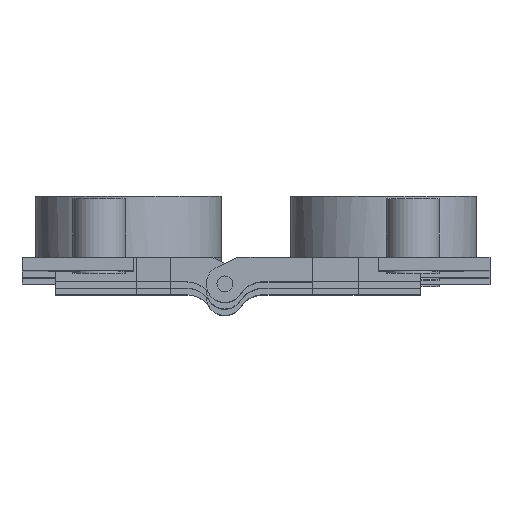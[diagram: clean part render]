
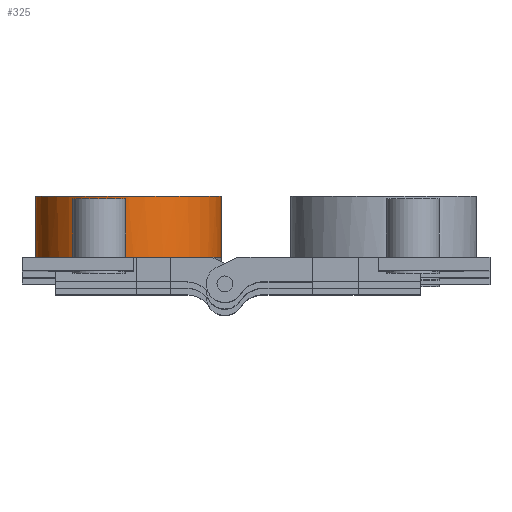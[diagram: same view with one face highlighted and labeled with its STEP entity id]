
A CAD part, top view. The second image highlights one B-rep face of the part: STEP entity #325.
In plain terms, the highlighted cylindrical face has radius 17.5 mm (diameter 35 mm), a full revolution.
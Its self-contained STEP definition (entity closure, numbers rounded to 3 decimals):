
#325 = ADVANCED_FACE( '', ( #657, #658 ), #659, .T. );
#657 = FACE_OUTER_BOUND( '', #974, .T. );
#658 = FACE_OUTER_BOUND( '', #975, .T. );
#659 = CYLINDRICAL_SURFACE( '', #976, 17.5 );
#974 = EDGE_LOOP( '', ( #1725, #1726, #1727, #1728, #1729, #1730, #1731, #1732, #1733, #1734 ) );
#975 = EDGE_LOOP( '', ( #1735 ) );
#976 = AXIS2_PLACEMENT_3D( '', #1736, #1737, #1738 );
#1725 = ORIENTED_EDGE( '', *, *, #1865, .F. );
#1726 = ORIENTED_EDGE( '', *, *, #1995, .F. );
#1727 = ORIENTED_EDGE( '', *, *, #1848, .F. );
#1728 = ORIENTED_EDGE( '', *, *, #1806, .F. );
#1729 = ORIENTED_EDGE( '', *, *, #1845, .F. );
#1730 = ORIENTED_EDGE( '', *, *, #1815, .F. );
#1731 = ORIENTED_EDGE( '', *, *, #1843, .F. );
#1732 = ORIENTED_EDGE( '', *, *, #1812, .F. );
#1733 = ORIENTED_EDGE( '', *, *, #1841, .F. );
#1734 = ORIENTED_EDGE( '', *, *, #1780, .F. );
#1735 = ORIENTED_EDGE( '', *, *, #2040, .T. );
#1736 = CARTESIAN_POINT( '', ( -24., -50., 0. ) );
#1737 = DIRECTION( '', ( 0., 1., 0. ) );
#1738 = DIRECTION( '', ( 0., 0., -1. ) );
#1780 = EDGE_CURVE( '', #2084, #2085, #2086, .T. );
#1806 = EDGE_CURVE( '', #2130, #2131, #2132, .T. );
#1812 = EDGE_CURVE( '', #2141, #2143, #2144, .T. );
#1815 = EDGE_CURVE( '', #2147, #2149, #2150, .T. );
#1841 = EDGE_CURVE( '', #2085, #2141, #2191, .T. );
#1843 = EDGE_CURVE( '', #2143, #2147, #2193, .T. );
#1845 = EDGE_CURVE( '', #2149, #2130, #2195, .T. );
#1848 = EDGE_CURVE( '', #2131, #2114, #2199, .T. );
#1865 = EDGE_CURVE( '', #2226, #2084, #2227, .T. );
#1995 = EDGE_CURVE( '', #2114, #2226, #2421, .T. );
#2040 = EDGE_CURVE( '', #2479, #2479, #2480, .T. );
#2084 = VERTEX_POINT( '', #2529 );
#2085 = VERTEX_POINT( '', #2530 );
#2086 = CIRCLE( '', #2531, 17.5 );
#2114 = VERTEX_POINT( '', #2564 );
#2130 = VERTEX_POINT( '', #2584 );
#2131 = VERTEX_POINT( '', #2585 );
#2132 = CIRCLE( '', #2586, 17.5 );
#2141 = VERTEX_POINT( '', #2599 );
#2143 = VERTEX_POINT( '', #2602 );
#2144 = CIRCLE( '', #2603, 17.5 );
#2147 = VERTEX_POINT( '', #2607 );
#2149 = VERTEX_POINT( '', #2610 );
#2150 = CIRCLE( '', #2611, 17.5 );
#2191 = CIRCLE( '', #2660, 17.5 );
#2193 = CIRCLE( '', #2663, 17.5 );
#2195 = CIRCLE( '', #2666, 17.5 );
#2199 = CIRCLE( '', #2672, 17.5 );
#2226 = VERTEX_POINT( '', #2709 );
#2227 = CIRCLE( '', #2710, 17.5 );
#2421 = CIRCLE( '', #2978, 17.5 );
#2479 = VERTEX_POINT( '', #3050 );
#2480 = CIRCLE( '', #3051, 17.5 );
#2529 = CARTESIAN_POINT( '', ( -8.29, 0., 7.71 ) );
#2530 = CARTESIAN_POINT( '', ( -8.962, 0., 8.95 ) );
#2531 = AXIS2_PLACEMENT_3D( '', #3095, #3096, #3097 );
#2564 = CARTESIAN_POINT( '', ( -8.962, 0., -8.95 ) );
#2584 = CARTESIAN_POINT( '', ( -38.697, 0., -9.5 ) );
#2585 = CARTESIAN_POINT( '', ( -23., 0., -17.471 ) );
#2586 = AXIS2_PLACEMENT_3D( '', #3137, #3138, #3139 );
#2599 = CARTESIAN_POINT( '', ( -23., 0., 17.471 ) );
#2602 = CARTESIAN_POINT( '', ( -38.697, 0., 9.5 ) );
#2603 = AXIS2_PLACEMENT_3D( '', #3145, #3146, #3147 );
#2607 = CARTESIAN_POINT( '', ( -39., 0., 9.014 ) );
#2610 = CARTESIAN_POINT( '', ( -39., 0., -9.014 ) );
#2611 = AXIS2_PLACEMENT_3D( '', #3150, #3151, #3152 );
#2660 = AXIS2_PLACEMENT_3D( '', #3188, #3189, #3190 );
#2663 = AXIS2_PLACEMENT_3D( '', #3192, #3193, #3194 );
#2666 = AXIS2_PLACEMENT_3D( '', #3196, #3197, #3198 );
#2672 = AXIS2_PLACEMENT_3D( '', #3201, #3202, #3203 );
#2709 = CARTESIAN_POINT( '', ( -8.29, 0., -7.71 ) );
#2710 = AXIS2_PLACEMENT_3D( '', #3223, #3224, #3225 );
#2978 = AXIS2_PLACEMENT_3D( '', #3375, #3376, #3377 );
#3050 = CARTESIAN_POINT( '', ( -24., 11.5, -17.5 ) );
#3051 = AXIS2_PLACEMENT_3D( '', #3428, #3429, #3430 );
#3095 = CARTESIAN_POINT( '', ( -24., 0., 0. ) );
#3096 = DIRECTION( '', ( 0., -1., 0. ) );
#3097 = DIRECTION( '', ( 0., 0., -1. ) );
#3137 = CARTESIAN_POINT( '', ( -24., 0., 0. ) );
#3138 = DIRECTION( '', ( 0., -1., 0. ) );
#3139 = DIRECTION( '', ( 0., 0., -1. ) );
#3145 = CARTESIAN_POINT( '', ( -24., 0., 0. ) );
#3146 = DIRECTION( '', ( 0., -1., 0. ) );
#3147 = DIRECTION( '', ( 0., 0., -1. ) );
#3150 = CARTESIAN_POINT( '', ( -24., 0., 0. ) );
#3151 = DIRECTION( '', ( 0., -1., 0. ) );
#3152 = DIRECTION( '', ( 0., 0., -1. ) );
#3188 = CARTESIAN_POINT( '', ( -24., 0., 0. ) );
#3189 = DIRECTION( '', ( 0., -1., 0. ) );
#3190 = DIRECTION( '', ( 0., 0., -1. ) );
#3192 = CARTESIAN_POINT( '', ( -24., 0., 0. ) );
#3193 = DIRECTION( '', ( 0., -1., 0. ) );
#3194 = DIRECTION( '', ( 0., 0., -1. ) );
#3196 = CARTESIAN_POINT( '', ( -24., 0., 0. ) );
#3197 = DIRECTION( '', ( 0., -1., 0. ) );
#3198 = DIRECTION( '', ( 0., 0., -1. ) );
#3201 = CARTESIAN_POINT( '', ( -24., 0., 0. ) );
#3202 = DIRECTION( '', ( 0., -1., 0. ) );
#3203 = DIRECTION( '', ( 0., 0., -1. ) );
#3223 = CARTESIAN_POINT( '', ( -24., 0., 0. ) );
#3224 = DIRECTION( '', ( 0., -1., 0. ) );
#3225 = DIRECTION( '', ( 0., 0., -1. ) );
#3375 = CARTESIAN_POINT( '', ( -24., 0., 0. ) );
#3376 = DIRECTION( '', ( 0., -1., 0. ) );
#3377 = DIRECTION( '', ( 0., 0., -1. ) );
#3428 = CARTESIAN_POINT( '', ( -24., 11.5, 0. ) );
#3429 = DIRECTION( '', ( 0., -1., 0. ) );
#3430 = DIRECTION( '', ( 0., 0., -1. ) );
